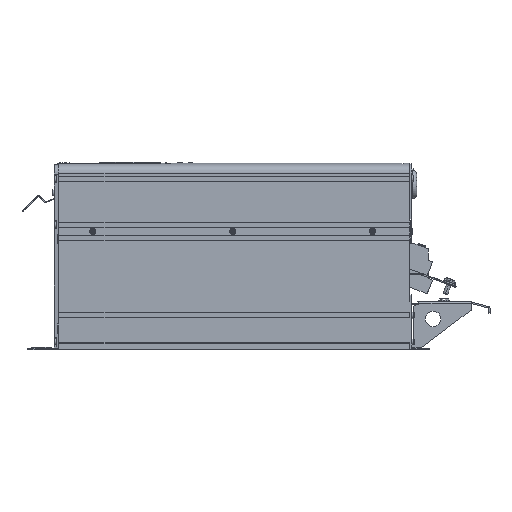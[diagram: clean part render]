
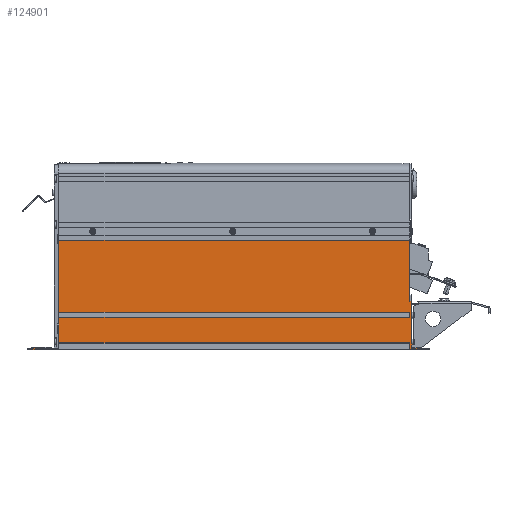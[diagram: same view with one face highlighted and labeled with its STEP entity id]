
A CAD part, left-side view. The second image highlights one B-rep face of the part: STEP entity #124901.
In plain terms, the highlighted planar face has unit normal (-1, 0, 0).
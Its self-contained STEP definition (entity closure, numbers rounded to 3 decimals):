
#16616=DIRECTION('',(0.,0.,-1.));
#16617=VECTOR('',#16616,12.);
#16618=CARTESIAN_POINT('',(-115.,223.75,33.5));
#16619=LINE('',#16618,#16617);
#16818=DIRECTION('',(0.,0.,-1.));
#16819=VECTOR('',#16818,4.6);
#16820=CARTESIAN_POINT('',(-115.,223.75,141.1));
#16821=LINE('',#16820,#16819);
#16878=DIRECTION('',(0.,0.,1.));
#16879=VECTOR('',#16878,1.4);
#16880=CARTESIAN_POINT('',(-115.,223.75,1.1));
#16881=LINE('',#16880,#16879);
#21961=DIRECTION('',(0.,1.,0.));
#21962=VECTOR('',#21961,33.);
#21963=CARTESIAN_POINT('',(-115.,226.75,2.5));
#21964=LINE('',#21963,#21962);
#30787=DIRECTION('',(0.,1.,0.));
#30788=VECTOR('',#30787,3.);
#30789=CARTESIAN_POINT('',(-115.,223.75,2.5));
#30790=LINE('',#30789,#30788);
#32801=DIRECTION('',(0.,1.,0.));
#32802=VECTOR('',#32801,12.);
#32803=CARTESIAN_POINT('',(-115.,211.75,1.));
#32804=LINE('',#32803,#32802);
#32805=DIRECTION('',(0.,0.,1.));
#32806=VECTOR('',#32805,1.);
#32807=CARTESIAN_POINT('',(-115.,223.75,0.));
#32808=LINE('',#32807,#32806);
#32809=DIRECTION('',(0.,-1.,0.));
#32810=VECTOR('',#32809,451.7);
#32811=CARTESIAN_POINT('',(-115.,223.75,1.1));
#32812=LINE('',#32811,#32810);
#32813=DIRECTION('',(0.,-1.,0.));
#32814=VECTOR('',#32813,451.7);
#32815=CARTESIAN_POINT('',(-115.,223.75,9.1));
#32816=LINE('',#32815,#32814);
#32817=DIRECTION('',(0.,0.,-1.));
#32818=VECTOR('',#32817,12.4);
#32819=CARTESIAN_POINT('',(-115.,223.75,21.5));
#32820=LINE('',#32819,#32818);
#32821=DIRECTION('',(0.,0.,-1.));
#32822=VECTOR('',#32821,8.6);
#32823=CARTESIAN_POINT('',(-115.,223.75,42.1));
#32824=LINE('',#32823,#32822);
#32825=DIRECTION('',(0.,-1.,0.));
#32826=VECTOR('',#32825,451.7);
#32827=CARTESIAN_POINT('',(-115.,223.75,42.1));
#32828=LINE('',#32827,#32826);
#32829=DIRECTION('',(0.,-1.,0.));
#32830=VECTOR('',#32829,451.7);
#32831=CARTESIAN_POINT('',(-115.,223.75,48.7));
#32832=LINE('',#32831,#32830);
#32833=DIRECTION('',(0.,0.,-1.));
#32834=VECTOR('',#32833,87.8);
#32835=CARTESIAN_POINT('',(-115.,223.75,136.5));
#32836=LINE('',#32835,#32834);
#32837=DIRECTION('',(0.,-1.,0.));
#32838=VECTOR('',#32837,451.7);
#32839=CARTESIAN_POINT('',(-115.,223.75,141.1));
#32840=LINE('',#32839,#32838);
#32841=DIRECTION('',(0.,-1.,0.));
#32842=VECTOR('',#32841,2.5);
#32843=CARTESIAN_POINT('',(-115.,-227.95,62.5));
#32844=LINE('',#32843,#32842);
#32845=DIRECTION('',(0.,0.,-1.));
#32846=VECTOR('',#32845,60.);
#32847=CARTESIAN_POINT('',(-115.,-230.45,62.5));
#32848=LINE('',#32847,#32846);
#32849=DIRECTION('',(0.,-1.,0.));
#32850=VECTOR('',#32849,17.8);
#32851=CARTESIAN_POINT('',(-115.,-230.45,2.5));
#32852=LINE('',#32851,#32850);
#32853=DIRECTION('',(0.,0.,1.));
#32854=VECTOR('',#32853,2.5);
#32855=CARTESIAN_POINT('',(-115.,-248.25,0.));
#32856=LINE('',#32855,#32854);
#32857=DIRECTION('',(0.,0.,1.));
#32858=VECTOR('',#32857,1.);
#32859=CARTESIAN_POINT('',(-115.,211.75,0.));
#32860=LINE('',#32859,#32858);
#32999=DIRECTION('',(0.,0.,1.));
#33000=VECTOR('',#32999,8.);
#33001=CARTESIAN_POINT('',(-115.,-227.95,1.1));
#33002=LINE('',#33001,#33000);
#33023=DIRECTION('',(0.,0.,1.));
#33024=VECTOR('',#33023,6.6);
#33025=CARTESIAN_POINT('',(-115.,-227.95,42.1));
#33026=LINE('',#33025,#33024);
#33453=DIRECTION('',(0.,0.,1.));
#33454=VECTOR('',#33453,78.6);
#33455=CARTESIAN_POINT('',(-115.,-227.95,62.5));
#33456=LINE('',#33455,#33454);
#42503=DIRECTION('',(0.,-1.,0.));
#42504=VECTOR('',#42503,36.);
#42505=CARTESIAN_POINT('',(-115.,259.75,0.));
#42506=LINE('',#42505,#42504);
#42547=DIRECTION('',(0.,-1.,0.));
#42548=VECTOR('',#42547,460.);
#42549=CARTESIAN_POINT('',(-115.,211.75,0.));
#42550=LINE('',#42549,#42548);
#44582=DIRECTION('',(0.,0.,1.));
#44583=VECTOR('',#44582,2.5);
#44584=CARTESIAN_POINT('',(-115.,259.75,0.));
#44585=LINE('',#44584,#44583);
#58005=CARTESIAN_POINT('',(-115.,223.75,136.5));
#58006=VERTEX_POINT('',#58005);
#58077=CARTESIAN_POINT('',(-115.,223.75,21.5));
#58079=VERTEX_POINT('',#58077);
#58081=CARTESIAN_POINT('',(-115.,223.75,33.5));
#58083=VERTEX_POINT('',#58081);
#60594=CARTESIAN_POINT('',(-115.,223.75,9.1));
#60595=VERTEX_POINT('',#60594);
#60606=CARTESIAN_POINT('',(-115.,223.75,141.1));
#60607=VERTEX_POINT('',#60606);
#60618=CARTESIAN_POINT('',(-115.,-227.95,141.1));
#60619=VERTEX_POINT('',#60618);
#60682=CARTESIAN_POINT('',(-115.,259.75,0.));
#60684=VERTEX_POINT('',#60682);
#60692=CARTESIAN_POINT('',(-115.,259.75,2.5));
#60694=VERTEX_POINT('',#60692);
#60700=CARTESIAN_POINT('',(-115.,226.75,2.5));
#60701=VERTEX_POINT('',#60700);
#60706=CARTESIAN_POINT('',(-115.,223.75,1.1));
#60707=CARTESIAN_POINT('',(-115.,223.75,2.5));
#60708=VERTEX_POINT('',#60706);
#60709=VERTEX_POINT('',#60707);
#60738=CARTESIAN_POINT('',(-115.,-227.95,1.1));
#60739=CARTESIAN_POINT('',(-115.,-227.95,9.1));
#60740=VERTEX_POINT('',#60738);
#60741=VERTEX_POINT('',#60739);
#60778=CARTESIAN_POINT('',(-115.,-248.25,2.5));
#60780=VERTEX_POINT('',#60778);
#60784=CARTESIAN_POINT('',(-115.,-248.25,0.));
#60785=VERTEX_POINT('',#60784);
#60794=CARTESIAN_POINT('',(-115.,-230.45,2.5));
#60795=VERTEX_POINT('',#60794);
#60834=CARTESIAN_POINT('',(-115.,-227.95,62.5));
#60835=CARTESIAN_POINT('',(-115.,-230.45,62.5));
#60836=VERTEX_POINT('',#60834);
#60837=VERTEX_POINT('',#60835);
#62102=CARTESIAN_POINT('',(-115.,223.75,48.7));
#62103=VERTEX_POINT('',#62102);
#62108=CARTESIAN_POINT('',(-115.,223.75,42.1));
#62109=VERTEX_POINT('',#62108);
#62118=CARTESIAN_POINT('',(-115.,-227.95,42.1));
#62119=CARTESIAN_POINT('',(-115.,-227.95,48.7));
#62120=VERTEX_POINT('',#62118);
#62121=VERTEX_POINT('',#62119);
#65978=CARTESIAN_POINT('',(-115.,211.75,1.));
#65979=CARTESIAN_POINT('',(-115.,223.75,1.));
#65980=VERTEX_POINT('',#65978);
#65981=VERTEX_POINT('',#65979);
#65982=CARTESIAN_POINT('',(-115.,211.75,0.));
#65983=VERTEX_POINT('',#65982);
#65984=CARTESIAN_POINT('',(-115.,223.75,0.));
#65985=VERTEX_POINT('',#65984);
#124850=CARTESIAN_POINT('',(-115.,223.75,227.));
#124851=DIRECTION('',(-1.,0.,0.));
#124852=DIRECTION('',(0.,0.,-1.));
#124853=AXIS2_PLACEMENT_3D('',#124850,#124851,#124852);
#124854=PLANE('',#124853);
#124856=ORIENTED_EDGE('',*,*,#124855,.T.);
#124858=ORIENTED_EDGE('',*,*,#124857,.F.);
#124860=ORIENTED_EDGE('',*,*,#124859,.F.);
#124862=ORIENTED_EDGE('',*,*,#124861,.T.);
#124863=ORIENTED_EDGE('',*,*,#108900,.F.);
#124864=ORIENTED_EDGE('',*,*,#122335,.F.);
#124865=ORIENTED_EDGE('',*,*,#100026,.F.);
#124867=ORIENTED_EDGE('',*,*,#124866,.T.);
#124869=ORIENTED_EDGE('',*,*,#124868,.T.);
#124871=ORIENTED_EDGE('',*,*,#124870,.F.);
#124872=ORIENTED_EDGE('',*,*,#100870,.F.);
#124873=ORIENTED_EDGE('',*,*,#99806,.F.);
#124874=ORIENTED_EDGE('',*,*,#100901,.F.);
#124876=ORIENTED_EDGE('',*,*,#124875,.T.);
#124878=ORIENTED_EDGE('',*,*,#124877,.T.);
#124880=ORIENTED_EDGE('',*,*,#124879,.F.);
#124881=ORIENTED_EDGE('',*,*,#100909,.F.);
#124882=ORIENTED_EDGE('',*,*,#99947,.F.);
#124884=ORIENTED_EDGE('',*,*,#124883,.T.);
#124886=ORIENTED_EDGE('',*,*,#124885,.F.);
#124888=ORIENTED_EDGE('',*,*,#124887,.T.);
#124890=ORIENTED_EDGE('',*,*,#124889,.T.);
#124892=ORIENTED_EDGE('',*,*,#124891,.T.);
#124894=ORIENTED_EDGE('',*,*,#124893,.F.);
#124896=ORIENTED_EDGE('',*,*,#124895,.F.);
#124898=ORIENTED_EDGE('',*,*,#124897,.T.);
#124899=EDGE_LOOP('',(#124856,#124858,#124860,#124862,#124863,#124864,#124865,
#124867,#124869,#124871,#124872,#124873,#124874,#124876,#124878,#124880,#124881,
#124882,#124884,#124886,#124888,#124890,#124892,#124894,#124896,#124898));
#124900=FACE_OUTER_BOUND('',#124899,.F.);
#124901=ADVANCED_FACE('',(#124900),#124854,.T.);
#99806=EDGE_CURVE('',#58083,#58079,#16619,.T.);
#99947=EDGE_CURVE('',#60607,#58006,#16821,.T.);
#100026=EDGE_CURVE('',#60708,#60709,#16881,.T.);
#100870=EDGE_CURVE('',#58079,#60595,#32820,.T.);
#100901=EDGE_CURVE('',#62109,#58083,#32824,.T.);
#100909=EDGE_CURVE('',#58006,#62103,#32836,.T.);
#108900=EDGE_CURVE('',#60701,#60694,#21964,.T.);
#122335=EDGE_CURVE('',#60709,#60701,#30790,.T.);
#124855=EDGE_CURVE('',#65980,#65981,#32804,.T.);
#124857=EDGE_CURVE('',#65985,#65981,#32808,.T.);
#124859=EDGE_CURVE('',#60684,#65985,#42506,.T.);
#124861=EDGE_CURVE('',#60684,#60694,#44585,.T.);
#124866=EDGE_CURVE('',#60708,#60740,#32812,.T.);
#124868=EDGE_CURVE('',#60740,#60741,#33002,.T.);
#124870=EDGE_CURVE('',#60595,#60741,#32816,.T.);
#124875=EDGE_CURVE('',#62109,#62120,#32828,.T.);
#124877=EDGE_CURVE('',#62120,#62121,#33026,.T.);
#124879=EDGE_CURVE('',#62103,#62121,#32832,.T.);
#124883=EDGE_CURVE('',#60607,#60619,#32840,.T.);
#124885=EDGE_CURVE('',#60836,#60619,#33456,.T.);
#124887=EDGE_CURVE('',#60836,#60837,#32844,.T.);
#124889=EDGE_CURVE('',#60837,#60795,#32848,.T.);
#124891=EDGE_CURVE('',#60795,#60780,#32852,.T.);
#124893=EDGE_CURVE('',#60785,#60780,#32856,.T.);
#124895=EDGE_CURVE('',#65983,#60785,#42550,.T.);
#124897=EDGE_CURVE('',#65983,#65980,#32860,.T.);
